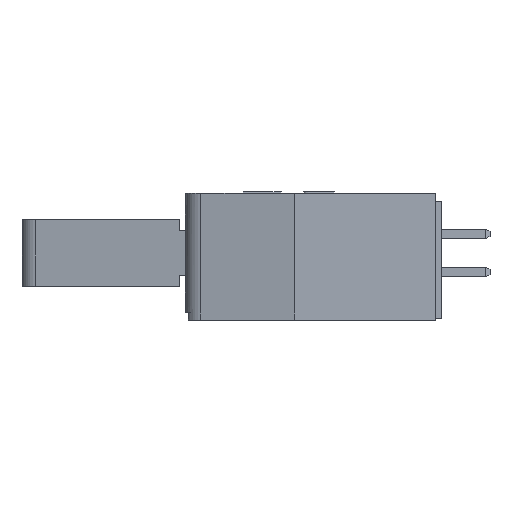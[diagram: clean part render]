
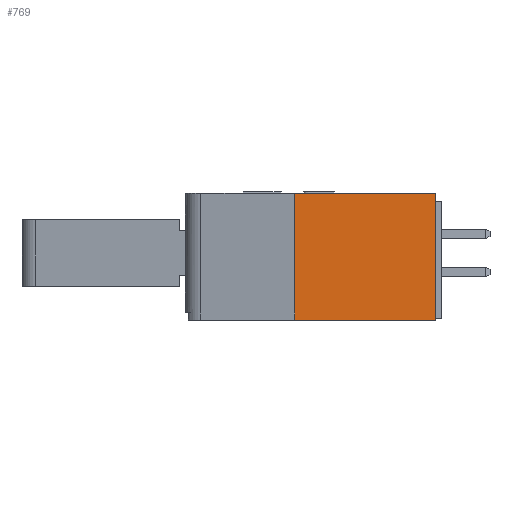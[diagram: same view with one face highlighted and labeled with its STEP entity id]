
A CAD part, left-side view. The second image highlights one B-rep face of the part: STEP entity #769.
In plain terms, the highlighted planar face has unit normal (-1, 0, 0).
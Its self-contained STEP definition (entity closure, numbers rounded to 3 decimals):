
#769=ADVANCED_FACE('',(#2654),#1715,.T.);
#1715=PLANE('',#18235);
#2654=FACE_OUTER_BOUND('',#3625,.T.);
#3625=EDGE_LOOP('',(#6324,#6325,#6326,#6327));
#6324=ORIENTED_EDGE('',*,*,#11925,.F.);
#6325=ORIENTED_EDGE('',*,*,#10988,.F.);
#6326=ORIENTED_EDGE('',*,*,#11080,.T.);
#6327=ORIENTED_EDGE('',*,*,#11863,.T.);
#9419=VERTEX_POINT('',#23608);
#9420=VERTEX_POINT('',#23610);
#9509=VERTEX_POINT('',#23791);
#10040=VERTEX_POINT('',#25581);
#10988=EDGE_CURVE('',#9419,#9420,#13446,.T.);
#11080=EDGE_CURVE('',#9419,#9509,#13537,.T.);
#11863=EDGE_CURVE('',#9509,#10040,#14201,.T.);
#11925=EDGE_CURVE('',#9420,#10040,#14261,.T.);
#13446=LINE('',#23609,#15740);
#13537=LINE('',#23792,#15831);
#14201=LINE('',#25583,#16497);
#14261=LINE('',#25718,#16557);
#15740=VECTOR('',#19096,1.);
#15831=VECTOR('',#19191,1.);
#16497=VECTOR('',#20379,1.);
#16557=VECTOR('',#20585,1.);
#18235=AXIS2_PLACEMENT_3D('',#25720,#20588,#20589);
#19096=DIRECTION('',(0.,0.,-1.));
#19191=DIRECTION('',(0.,1.,0.));
#20379=DIRECTION('',(0.,0.,-1.));
#20585=DIRECTION('',(0.,1.,0.));
#20588=DIRECTION('',(-1.,0.,0.));
#20589=DIRECTION('',(0.,0.,-1.));
#23608=CARTESIAN_POINT('',(135.364,115.93,4.2));
#23609=CARTESIAN_POINT('',(135.364,115.93,4.2));
#23610=CARTESIAN_POINT('',(135.364,115.93,-4.2));
#23791=CARTESIAN_POINT('',(135.364,125.294,4.2));
#23792=CARTESIAN_POINT('',(135.364,115.929,4.2));
#25581=CARTESIAN_POINT('',(135.364,125.294,-4.2));
#25583=CARTESIAN_POINT('',(135.364,125.294,4.2));
#25718=CARTESIAN_POINT('',(135.364,115.929,-4.2));
#25720=CARTESIAN_POINT('',(135.364,115.929,4.2));
